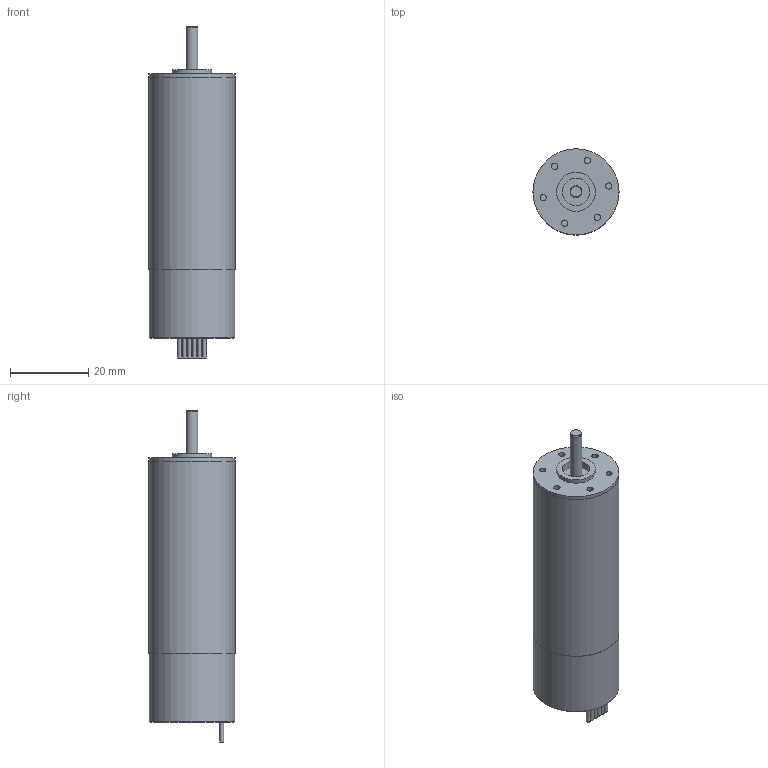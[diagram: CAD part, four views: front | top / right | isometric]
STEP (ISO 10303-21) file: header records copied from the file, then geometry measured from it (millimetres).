
FILE_DESCRIPTION(/* description */ (''),/* implementation_level */ '2;1');
FILE_NAME(/* name */ '2250.BX4_SC.stp',/* time_stamp */ '2012-10-31T07:37:53+01:00',/* author */ ('DR. FRITZ FAULHABER GmbH & Co. KG'),/* organization */ ('DR. FRITZ FAULHABER GmbH & Co. KG'),/* preprocessor_version */ 'ST-DEVELOPER v11',/* originating_system */ 'SIEMENS PLM Software NX 7.5',/* authorisation */ '');
FILE_SCHEMA (('AUTOMOTIVE_DESIGN { 1 0 10303 214 1 1 1 1 }'));
Length unit declared in the file: millimetre
Products named in the file (1): 2250.BX4_SC
Bounding box: 22 x 22 x 84.8 mm (x, y, z)
Volume: 25655.6 mm3; surface area: 5804.9 mm2
Topology: 1 solids, 1 shells, 51 faces, 106 edges, 71 vertices
Faces by surface type: plane 26, cylinder 24, cone 1
Full cylindrical faces by diameter (mm): 1.6 x6, 3 x1, 7 x1, 10 x1, 21.1 x1, 21.8 x1, 21.99 x1, 22 x2
Entity records: 1316 total; most frequent: DIRECTION 242, CARTESIAN_POINT 210, ORIENTED_EDGE 178, AXIS2_PLACEMENT_3D 101, EDGE_CURVE 89, EDGE_LOOP 80, VERTEX_POINT 69, FACE_BOUND 52
